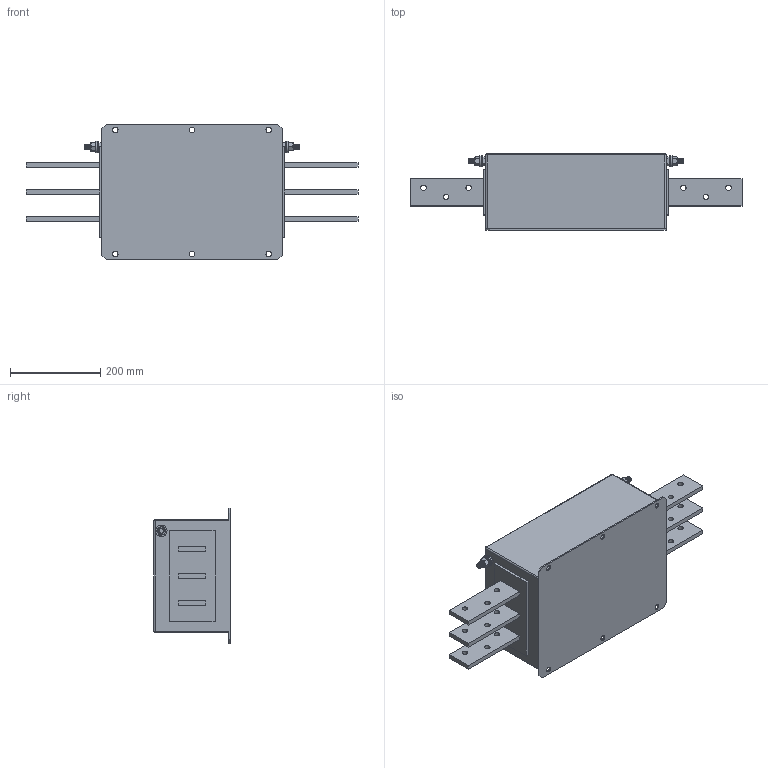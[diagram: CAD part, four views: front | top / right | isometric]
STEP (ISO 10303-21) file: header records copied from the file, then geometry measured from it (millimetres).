
FILE_DESCRIPTION (( 'STEP AP214' ), '1' );
FILE_NAME ('NF-1200-EHC.STEP', '2026-09-16T10:14:10', ( '' ), ( '' ), 'SwSTEP 2.0', 'SolidWorks 2025', '' );
FILE_SCHEMA (( 'AUTOMOTIVE_DESIGN' ));
Length unit declared in the file: millimetre
Products named in the file (7): Flat Washer Narrow_AM_B18.22M - Plain washer, 12 mm, narrow_2; NF-1200-EHC_1; Formed Hex Screw_AM_B18.2.3.2M - Formed hex screw, M12 x 1.75 x 30 --30CS_3; NF-1200-EHC; Hex Nut Style 1_AM_B18.2.4.1M - Hex nut, Style 1,  M12 x 1.75 --D-N_3; UB-NF-1200-EHC; M12x30 Earth post_3
Assembly tree (8 placements, depth 4):
  NF-1200-EHC
    UB-NF-1200-EHC
      M12x30 Earth post_3  x2
        Formed Hex Screw_AM_B18.2.3.2M - Formed hex screw, M12 x 1.75 x 30 --30CS_3
        Flat Washer Narrow_AM_B18.22M - Plain washer, 12 mm, narrow_2
        Hex Nut Style 1_AM_B18.2.4.1M - Hex nut, Style 1,  M12 x 1.75 --D-N_3
      NF-1200-EHC_1
Bounding box: 736 x 170 x 300 mm (x, y, z)
Volume: 17812643.7 mm3; surface area: 633773 mm2
Topology: 9 solids, 9 shells, 472 faces, 1178 edges, 728 vertices
Faces by surface type: cone 204, cylinder 166, plane 98, sphere 4
Entity records: 9914 total; most frequent: CARTESIAN_POINT 2313, DIRECTION 1664, ORIENTED_EDGE 1480, EDGE_CURVE 740, AXIS2_PLACEMENT_3D 663, VERTEX_POINT 466, EDGE_LOOP 364, CIRCLE 354
